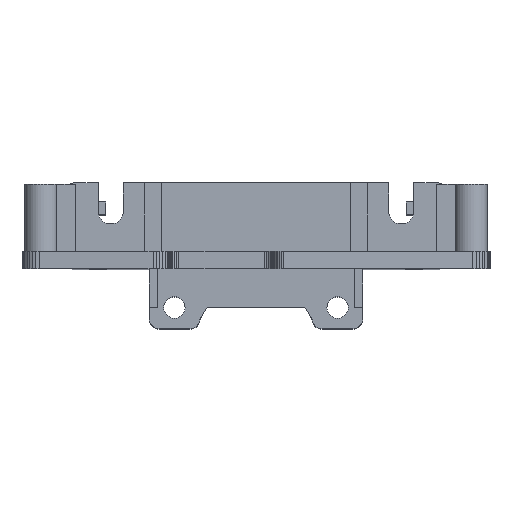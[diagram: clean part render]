
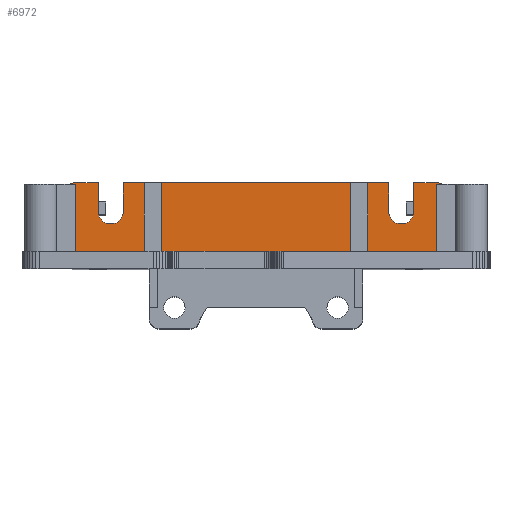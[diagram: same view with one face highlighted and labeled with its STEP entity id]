
A CAD part, top view. The second image highlights one B-rep face of the part: STEP entity #6972.
In plain terms, the highlighted planar face has unit normal (0, 0, 1).
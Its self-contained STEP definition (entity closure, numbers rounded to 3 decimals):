
#1749 = EDGE_CURVE('',#1750,#1752,#1754,.T.);
#1750 = VERTEX_POINT('',#1751);
#1751 = CARTESIAN_POINT('',(22.983,27.,50.983));
#1752 = VERTEX_POINT('',#1753);
#1753 = CARTESIAN_POINT('',(-22.983,27.,50.983));
#1754 = LINE('',#1755,#1756);
#1755 = CARTESIAN_POINT('',(0.,27.,50.983));
#1756 = VECTOR('',#1757,1.);
#1757 = DIRECTION('',(-1.,0.,0.));
#6972 = ADVANCED_FACE('',(#6973),#7192,.T.);
#6973 = FACE_BOUND('',#6974,.T.);
#6974 = EDGE_LOOP('',(#6975,#6985,#6993,#7001,#7009,#7015,#7016,#7024,
    #7032,#7040,#7048,#7056,#7064,#7072,#7080,#7088,#7096,#7104,#7113,
    #7121,#7129,#7137,#7146,#7154,#7162,#7170,#7178,#7186));
#6975 = ORIENTED_EDGE('',*,*,#6976,.T.);
#6976 = EDGE_CURVE('',#6977,#6979,#6981,.T.);
#6977 = VERTEX_POINT('',#6978);
#6978 = CARTESIAN_POINT('',(-22.397,34.414,50.983));
#6979 = VERTEX_POINT('',#6980);
#6980 = CARTESIAN_POINT('',(-22.646,34.111,50.983));
#6981 = LINE('',#6982,#6983);
#6982 = CARTESIAN_POINT('',(-22.397,34.414,50.983));
#6983 = VECTOR('',#6984,1.);
#6984 = DIRECTION('',(-0.634,-0.773,0.));
#6985 = ORIENTED_EDGE('',*,*,#6986,.T.);
#6986 = EDGE_CURVE('',#6979,#6987,#6989,.T.);
#6987 = VERTEX_POINT('',#6988);
#6988 = CARTESIAN_POINT('',(-22.831,33.765,50.983));
#6989 = LINE('',#6990,#6991);
#6990 = CARTESIAN_POINT('',(-22.646,34.111,50.983));
#6991 = VECTOR('',#6992,1.);
#6992 = DIRECTION('',(-0.471,-0.882,0.));
#6993 = ORIENTED_EDGE('',*,*,#6994,.T.);
#6994 = EDGE_CURVE('',#6987,#6995,#6997,.T.);
#6995 = VERTEX_POINT('',#6996);
#6996 = CARTESIAN_POINT('',(-22.945,33.39,50.983));
#6997 = LINE('',#6998,#6999);
#6998 = CARTESIAN_POINT('',(-22.831,33.765,50.983));
#6999 = VECTOR('',#7000,1.);
#7000 = DIRECTION('',(-0.29,-0.957,0.));
#7001 = ORIENTED_EDGE('',*,*,#7002,.T.);
#7002 = EDGE_CURVE('',#6995,#7003,#7005,.T.);
#7003 = VERTEX_POINT('',#7004);
#7004 = CARTESIAN_POINT('',(-22.983,33.,50.983));
#7005 = LINE('',#7006,#7007);
#7006 = CARTESIAN_POINT('',(-22.945,33.39,50.983));
#7007 = VECTOR('',#7008,1.);
#7008 = DIRECTION('',(-0.098,-0.995,0.));
#7009 = ORIENTED_EDGE('',*,*,#7010,.T.);
#7010 = EDGE_CURVE('',#7003,#1752,#7011,.T.);
#7011 = LINE('',#7012,#7013);
#7012 = CARTESIAN_POINT('',(-22.983,33.,50.983));
#7013 = VECTOR('',#7014,1.);
#7014 = DIRECTION('',(0.,-1.,0.));
#7015 = ORIENTED_EDGE('',*,*,#1749,.F.);
#7016 = ORIENTED_EDGE('',*,*,#7017,.T.);
#7017 = EDGE_CURVE('',#1750,#7018,#7020,.T.);
#7018 = VERTEX_POINT('',#7019);
#7019 = CARTESIAN_POINT('',(22.983,33.,50.983));
#7020 = LINE('',#7021,#7022);
#7021 = CARTESIAN_POINT('',(22.983,26.9,50.983));
#7022 = VECTOR('',#7023,1.);
#7023 = DIRECTION('',(0.,1.,0.));
#7024 = ORIENTED_EDGE('',*,*,#7025,.T.);
#7025 = EDGE_CURVE('',#7018,#7026,#7028,.T.);
#7026 = VERTEX_POINT('',#7027);
#7027 = CARTESIAN_POINT('',(22.945,33.39,50.983));
#7028 = LINE('',#7029,#7030);
#7029 = CARTESIAN_POINT('',(22.983,33.,50.983));
#7030 = VECTOR('',#7031,1.);
#7031 = DIRECTION('',(-0.098,0.995,0.));
#7032 = ORIENTED_EDGE('',*,*,#7033,.T.);
#7033 = EDGE_CURVE('',#7026,#7034,#7036,.T.);
#7034 = VERTEX_POINT('',#7035);
#7035 = CARTESIAN_POINT('',(22.831,33.765,50.983));
#7036 = LINE('',#7037,#7038);
#7037 = CARTESIAN_POINT('',(22.945,33.39,50.983));
#7038 = VECTOR('',#7039,1.);
#7039 = DIRECTION('',(-0.29,0.957,0.));
#7040 = ORIENTED_EDGE('',*,*,#7041,.T.);
#7041 = EDGE_CURVE('',#7034,#7042,#7044,.T.);
#7042 = VERTEX_POINT('',#7043);
#7043 = CARTESIAN_POINT('',(22.646,34.111,50.983));
#7044 = LINE('',#7045,#7046);
#7045 = CARTESIAN_POINT('',(22.831,33.765,50.983));
#7046 = VECTOR('',#7047,1.);
#7047 = DIRECTION('',(-0.471,0.882,0.));
#7048 = ORIENTED_EDGE('',*,*,#7049,.T.);
#7049 = EDGE_CURVE('',#7042,#7050,#7052,.T.);
#7050 = VERTEX_POINT('',#7051);
#7051 = CARTESIAN_POINT('',(22.397,34.414,50.983));
#7052 = LINE('',#7053,#7054);
#7053 = CARTESIAN_POINT('',(22.646,34.111,50.983));
#7054 = VECTOR('',#7055,1.);
#7055 = DIRECTION('',(-0.634,0.773,0.));
#7056 = ORIENTED_EDGE('',*,*,#7057,.T.);
#7057 = EDGE_CURVE('',#7050,#7058,#7060,.T.);
#7058 = VERTEX_POINT('',#7059);
#7059 = CARTESIAN_POINT('',(22.094,34.663,50.983));
#7060 = LINE('',#7061,#7062);
#7061 = CARTESIAN_POINT('',(22.397,34.414,50.983));
#7062 = VECTOR('',#7063,1.);
#7063 = DIRECTION('',(-0.773,0.634,0.));
#7064 = ORIENTED_EDGE('',*,*,#7065,.T.);
#7065 = EDGE_CURVE('',#7058,#7066,#7068,.T.);
#7066 = VERTEX_POINT('',#7067);
#7067 = CARTESIAN_POINT('',(21.748,34.848,50.983));
#7068 = LINE('',#7069,#7070);
#7069 = CARTESIAN_POINT('',(22.094,34.663,50.983));
#7070 = VECTOR('',#7071,1.);
#7071 = DIRECTION('',(-0.882,0.471,0.));
#7072 = ORIENTED_EDGE('',*,*,#7073,.T.);
#7073 = EDGE_CURVE('',#7066,#7074,#7076,.T.);
#7074 = VERTEX_POINT('',#7075);
#7075 = CARTESIAN_POINT('',(21.373,34.962,50.983));
#7076 = LINE('',#7077,#7078);
#7077 = CARTESIAN_POINT('',(21.748,34.848,50.983));
#7078 = VECTOR('',#7079,1.);
#7079 = DIRECTION('',(-0.957,0.29,0.));
#7080 = ORIENTED_EDGE('',*,*,#7081,.T.);
#7081 = EDGE_CURVE('',#7074,#7082,#7084,.T.);
#7082 = VERTEX_POINT('',#7083);
#7083 = CARTESIAN_POINT('',(20.983,35.,50.983));
#7084 = LINE('',#7085,#7086);
#7085 = CARTESIAN_POINT('',(21.373,34.962,50.983));
#7086 = VECTOR('',#7087,1.);
#7087 = DIRECTION('',(-0.995,0.098,0.));
#7088 = ORIENTED_EDGE('',*,*,#7089,.T.);
#7089 = EDGE_CURVE('',#7082,#7090,#7092,.T.);
#7090 = VERTEX_POINT('',#7091);
#7091 = CARTESIAN_POINT('',(18.35,35.,50.983));
#7092 = LINE('',#7093,#7094);
#7093 = CARTESIAN_POINT('',(20.983,35.,50.983));
#7094 = VECTOR('',#7095,1.);
#7095 = DIRECTION('',(-1.,0.,0.));
#7096 = ORIENTED_EDGE('',*,*,#7097,.F.);
#7097 = EDGE_CURVE('',#7098,#7090,#7100,.T.);
#7098 = VERTEX_POINT('',#7099);
#7099 = CARTESIAN_POINT('',(18.35,31.654,50.983));
#7100 = LINE('',#7101,#7102);
#7101 = CARTESIAN_POINT('',(18.35,31.266,50.983));
#7102 = VECTOR('',#7103,1.);
#7103 = DIRECTION('',(-0.,1.,0.));
#7104 = ORIENTED_EDGE('',*,*,#7105,.F.);
#7105 = EDGE_CURVE('',#7106,#7098,#7108,.T.);
#7106 = VERTEX_POINT('',#7107);
#7107 = CARTESIAN_POINT('',(15.45,31.654,50.983));
#7108 = CIRCLE('',#7109,1.45);
#7109 = AXIS2_PLACEMENT_3D('',#7110,#7111,#7112);
#7110 = CARTESIAN_POINT('',(16.9,31.654,50.983));
#7111 = DIRECTION('',(0.,0.,1.));
#7112 = DIRECTION('',(1.,0.,-0.));
#7113 = ORIENTED_EDGE('',*,*,#7114,.T.);
#7114 = EDGE_CURVE('',#7106,#7115,#7117,.T.);
#7115 = VERTEX_POINT('',#7116);
#7116 = CARTESIAN_POINT('',(15.45,35.,50.983));
#7117 = LINE('',#7118,#7119);
#7118 = CARTESIAN_POINT('',(15.45,31.266,50.983));
#7119 = VECTOR('',#7120,1.);
#7120 = DIRECTION('',(-0.,1.,0.));
#7121 = ORIENTED_EDGE('',*,*,#7122,.T.);
#7122 = EDGE_CURVE('',#7115,#7123,#7125,.T.);
#7123 = VERTEX_POINT('',#7124);
#7124 = CARTESIAN_POINT('',(-15.45,35.,50.983));
#7125 = LINE('',#7126,#7127);
#7126 = CARTESIAN_POINT('',(20.983,35.,50.983));
#7127 = VECTOR('',#7128,1.);
#7128 = DIRECTION('',(-1.,0.,0.));
#7129 = ORIENTED_EDGE('',*,*,#7130,.F.);
#7130 = EDGE_CURVE('',#7131,#7123,#7133,.T.);
#7131 = VERTEX_POINT('',#7132);
#7132 = CARTESIAN_POINT('',(-15.45,31.654,50.983));
#7133 = LINE('',#7134,#7135);
#7134 = CARTESIAN_POINT('',(-15.45,31.266,50.983));
#7135 = VECTOR('',#7136,1.);
#7136 = DIRECTION('',(-0.,1.,0.));
#7137 = ORIENTED_EDGE('',*,*,#7138,.F.);
#7138 = EDGE_CURVE('',#7139,#7131,#7141,.T.);
#7139 = VERTEX_POINT('',#7140);
#7140 = CARTESIAN_POINT('',(-18.35,31.654,50.983));
#7141 = CIRCLE('',#7142,1.45);
#7142 = AXIS2_PLACEMENT_3D('',#7143,#7144,#7145);
#7143 = CARTESIAN_POINT('',(-16.9,31.654,50.983));
#7144 = DIRECTION('',(0.,0.,1.));
#7145 = DIRECTION('',(1.,0.,-0.));
#7146 = ORIENTED_EDGE('',*,*,#7147,.T.);
#7147 = EDGE_CURVE('',#7139,#7148,#7150,.T.);
#7148 = VERTEX_POINT('',#7149);
#7149 = CARTESIAN_POINT('',(-18.35,35.,50.983));
#7150 = LINE('',#7151,#7152);
#7151 = CARTESIAN_POINT('',(-18.35,31.266,50.983));
#7152 = VECTOR('',#7153,1.);
#7153 = DIRECTION('',(-0.,1.,0.));
#7154 = ORIENTED_EDGE('',*,*,#7155,.T.);
#7155 = EDGE_CURVE('',#7148,#7156,#7158,.T.);
#7156 = VERTEX_POINT('',#7157);
#7157 = CARTESIAN_POINT('',(-20.983,35.,50.983));
#7158 = LINE('',#7159,#7160);
#7159 = CARTESIAN_POINT('',(20.983,35.,50.983));
#7160 = VECTOR('',#7161,1.);
#7161 = DIRECTION('',(-1.,0.,0.));
#7162 = ORIENTED_EDGE('',*,*,#7163,.T.);
#7163 = EDGE_CURVE('',#7156,#7164,#7166,.T.);
#7164 = VERTEX_POINT('',#7165);
#7165 = CARTESIAN_POINT('',(-21.373,34.962,50.983));
#7166 = LINE('',#7167,#7168);
#7167 = CARTESIAN_POINT('',(-20.983,35.,50.983));
#7168 = VECTOR('',#7169,1.);
#7169 = DIRECTION('',(-0.995,-0.098,0.));
#7170 = ORIENTED_EDGE('',*,*,#7171,.T.);
#7171 = EDGE_CURVE('',#7164,#7172,#7174,.T.);
#7172 = VERTEX_POINT('',#7173);
#7173 = CARTESIAN_POINT('',(-21.748,34.848,50.983));
#7174 = LINE('',#7175,#7176);
#7175 = CARTESIAN_POINT('',(-21.373,34.962,50.983));
#7176 = VECTOR('',#7177,1.);
#7177 = DIRECTION('',(-0.957,-0.29,0.));
#7178 = ORIENTED_EDGE('',*,*,#7179,.T.);
#7179 = EDGE_CURVE('',#7172,#7180,#7182,.T.);
#7180 = VERTEX_POINT('',#7181);
#7181 = CARTESIAN_POINT('',(-22.094,34.663,50.983));
#7182 = LINE('',#7183,#7184);
#7183 = CARTESIAN_POINT('',(-21.748,34.848,50.983));
#7184 = VECTOR('',#7185,1.);
#7185 = DIRECTION('',(-0.882,-0.471,0.));
#7186 = ORIENTED_EDGE('',*,*,#7187,.T.);
#7187 = EDGE_CURVE('',#7180,#6977,#7188,.T.);
#7188 = LINE('',#7189,#7190);
#7189 = CARTESIAN_POINT('',(-22.094,34.663,50.983));
#7190 = VECTOR('',#7191,1.);
#7191 = DIRECTION('',(-0.773,-0.634,0.));
#7192 = PLANE('',#7193);
#7193 = AXIS2_PLACEMENT_3D('',#7194,#7195,#7196);
#7194 = CARTESIAN_POINT('',(0.,30.879,50.983));
#7195 = DIRECTION('',(0.,0.,1.));
#7196 = DIRECTION('',(1.,0.,-0.));
